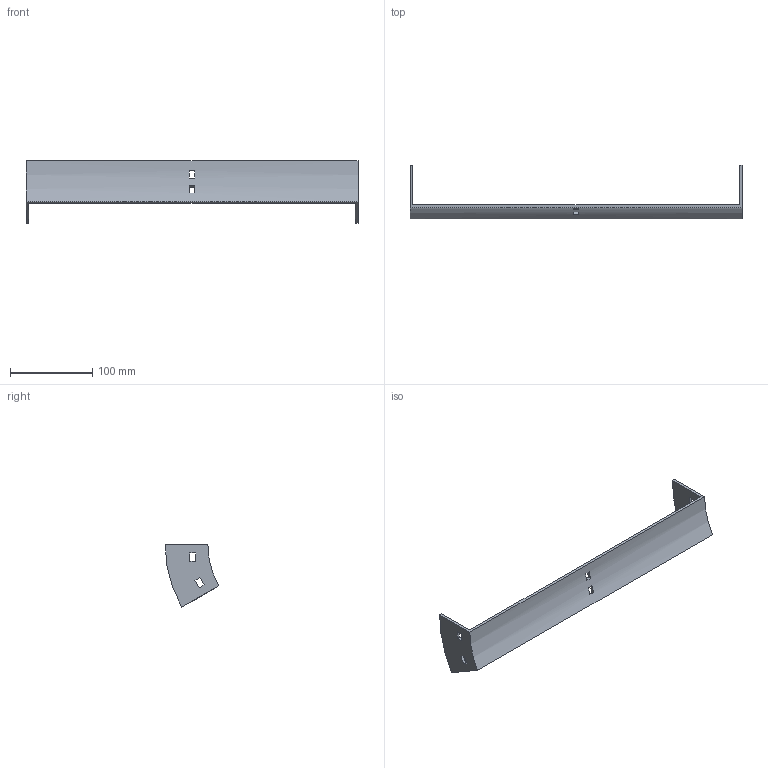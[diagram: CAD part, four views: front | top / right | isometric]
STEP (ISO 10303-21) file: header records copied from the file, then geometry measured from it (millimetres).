
FILE_DESCRIPTION (( 'STEP AP214' ), '1' );
FILE_NAME ('35B1B400.step', '2025-02-21T09:25:32', ( '' ), ( '' ), 'SwSTEP 2.0', 'SolidWorks 2023', '' );
FILE_SCHEMA (( 'AUTOMOTIVE_DESIGN' ));
Length unit declared in the file: millimetre
Products named in the file (1): 35B1B400
Bounding box: 404 x 65.4 x 76 mm (x, y, z)
Volume: 96646.4 mm3; surface area: 59980.3 mm2
Topology: 1 solids, 1 shells, 34 faces, 96 edges, 64 vertices
Faces by surface type: plane 30, cylinder 4
Entity records: 1143 total; most frequent: CARTESIAN_POINT 195, ORIENTED_EDGE 192, DIRECTION 182, EDGE_CURVE 96, LINE 80, VECTOR 80, VERTEX_POINT 64, AXIS2_PLACEMENT_3D 51
